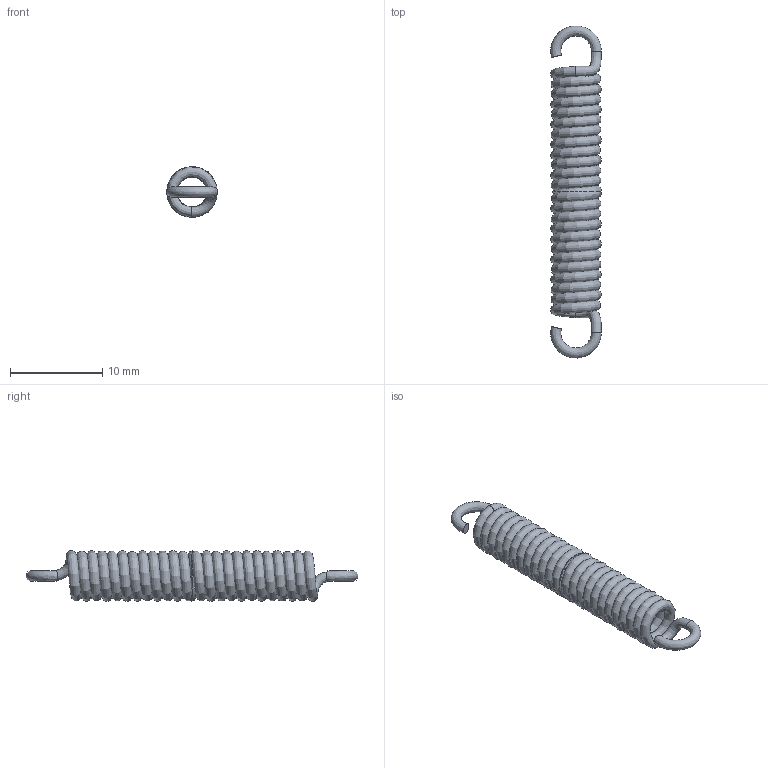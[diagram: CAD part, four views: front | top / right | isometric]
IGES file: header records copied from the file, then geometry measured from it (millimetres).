
Global section: file name: T20990; native system: Autodesk Inventor 2026; preprocessor: unknown; author: J. Iwanek; date: 20261005.101237; units: millimetre
Bounding box: 5.49 x 36.08 x 5.5 mm (x, y, z)
Volume: 336.1 mm3; surface area: 1226.8 mm2
Topology: 1 solids, 1 shells, 10 faces, 32 edges, 20 vertices
Faces by surface type: bspline 10
